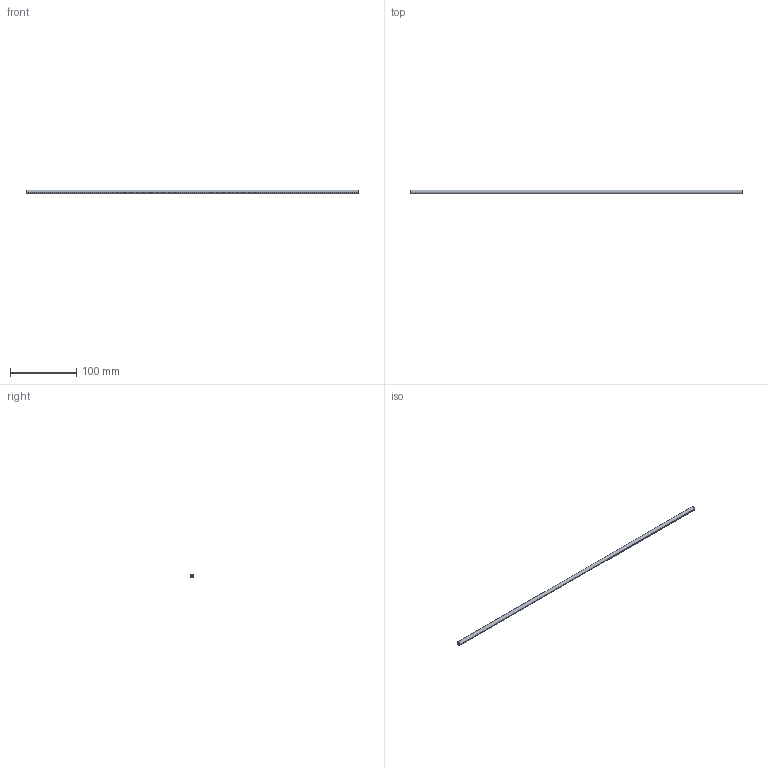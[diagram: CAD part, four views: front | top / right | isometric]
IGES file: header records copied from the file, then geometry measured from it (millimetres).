
Start section: START RECORD GO HERE.
Global section: file name: te063500.igs; native system: DASSAULT SYSTEMES CATIA V5 R20 - www.3ds.com; preprocessor: CATIA Version 5 Release 20 ; author: Utente; organization: NB04-ASUS; date: 20201107.142809; units: millimetre
Bounding box: 500 x 6 x 6 mm (x, y, z)
Surface area: 14474.9 mm2 (no closed solid volume)
Topology: 0 solids, 0 shells, 9 faces, 36 edges, 36 vertices
Faces by surface type: revolution 6, plane 3
